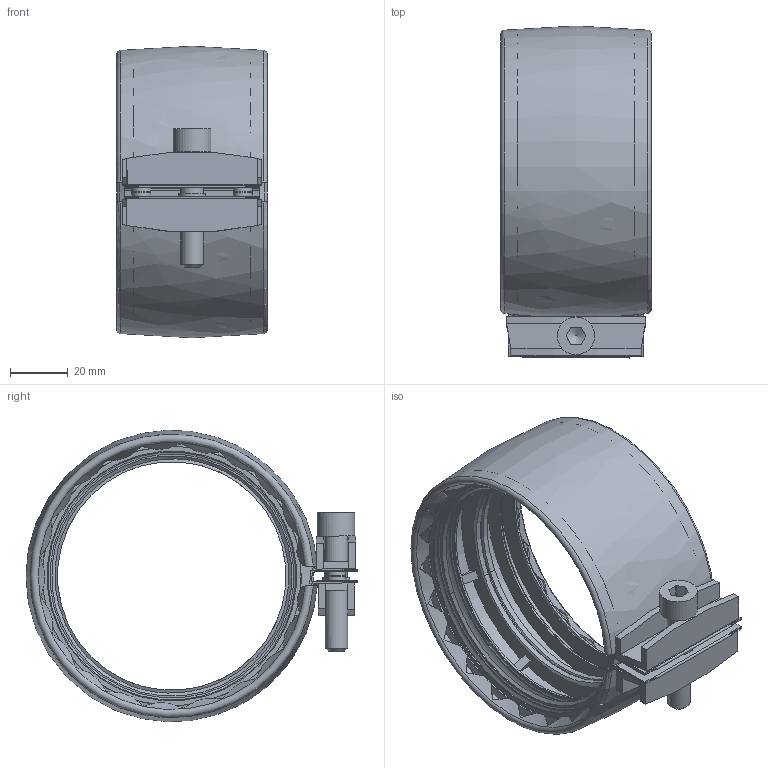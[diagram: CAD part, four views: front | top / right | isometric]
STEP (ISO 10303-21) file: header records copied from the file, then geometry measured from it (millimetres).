
FILE_DESCRIPTION(/* description */ (''),/* implementation_level */ '2;1');
FILE_NAME(/* name */ 'H:\Geberit-Teile\Export\Spannverbinder_neu\stp\308003.stp',/* time_stamp */ '2017-09-20T09:28:25+02:00',/* author */ ('seihe2'),/* organization */ (''),/* preprocessor_version */ 'ST-DEVELOPER v15.2',/* originating_system */ 'Autodesk Inventor 2014',/* authorisation */ '');
FILE_SCHEMA (('AUTOMOTIVE_DESIGN { 1 0 10303 214 3 1 1 }'));
Length unit declared in the file: millimetre
Products named in the file (1): 308003
Bounding box: 52 x 114.75 x 100.75 mm (x, y, z)
Volume: 68588 mm3; surface area: 97454.9 mm2
Topology: 5 solids, 5 shells, 410 faces, 1107 edges, 732 vertices
Faces by surface type: plane 225, cylinder 76, bspline 58, cone 29, torus 22
Full cylindrical faces by diameter (mm): 5.5 x4, 6.5 x4, 6.647 x1, 7.805 x1, 8 x1, 10.5 x4, 13 x1, 80.171 x1, 83.098 x4, 85.689 x4, 92.636 x2, 94.647 x2, 98 x1
Entity records: 15839 total; most frequent: CARTESIAN_POINT 5742, ORIENTED_EDGE 2068, DIRECTION 1921, EDGE_CURVE 1034, AXIS2_PLACEMENT_3D 778, VERTEX_POINT 710, EDGE_LOOP 498, STYLED_ITEM 414
